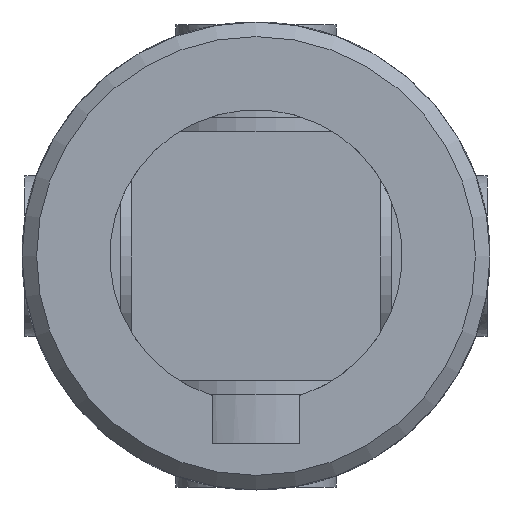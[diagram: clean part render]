
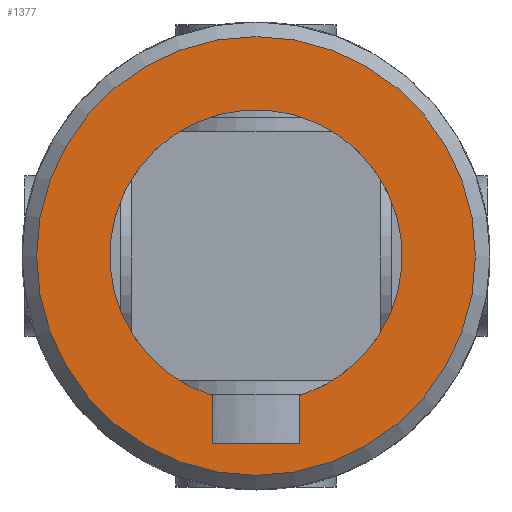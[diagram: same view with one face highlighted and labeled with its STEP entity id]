
A CAD part, front view. The second image highlights one B-rep face of the part: STEP entity #1377.
In plain terms, the highlighted planar face has unit normal (0, -1, 0).
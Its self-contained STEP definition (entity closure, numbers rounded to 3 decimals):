
#146=LINE('',#2459,#201);
#148=LINE('',#2465,#203);
#152=LINE('',#2477,#207);
#201=VECTOR('',#1793,6.);
#203=VECTOR('',#1799,3.261);
#207=VECTOR('',#1811,3.261);
#256=PLANE('',#1523);
#290=FACE_BOUND('',#468,.T.);
#356=FACE_OUTER_BOUND('',#467,.T.);
#467=EDGE_LOOP('',(#1171));
#468=EDGE_LOOP('',(#1172,#1173,#1174,#1175));
#543=CIRCLE('',#1509,10.);
#550=CIRCLE('',#1521,15.);
#645=VERTEX_POINT('',#2456);
#646=VERTEX_POINT('',#2458);
#648=VERTEX_POINT('',#2464);
#652=VERTEX_POINT('',#2475);
#666=VERTEX_POINT('',#2572);
#808=EDGE_CURVE('',#646,#645,#146,.T.);
#811=EDGE_CURVE('',#648,#646,#148,.T.);
#817=EDGE_CURVE('',#645,#652,#152,.T.);
#826=EDGE_CURVE('',#652,#648,#543,.T.);
#838=EDGE_CURVE('',#666,#666,#550,.T.);
#1171=ORIENTED_EDGE('',*,*,#838,.F.);
#1172=ORIENTED_EDGE('',*,*,#817,.T.);
#1173=ORIENTED_EDGE('',*,*,#826,.T.);
#1174=ORIENTED_EDGE('',*,*,#811,.T.);
#1175=ORIENTED_EDGE('',*,*,#808,.T.);
#1377=ADVANCED_FACE('',(#356,#290),#256,.F.);
#1509=AXIS2_PLACEMENT_3D('',#2522,#1820,#1821);
#1521=AXIS2_PLACEMENT_3D('',#2573,#1845,#1846);
#1523=AXIS2_PLACEMENT_3D('',#2785,#1853,#1854);
#1793=DIRECTION('',(-1.,0.,0.));
#1799=DIRECTION('',(0.,0.,-1.));
#1811=DIRECTION('',(0.,0.,1.));
#1820=DIRECTION('center_axis',(0.,1.,0.));
#1821=DIRECTION('ref_axis',(-0.3,0.,0.954));
#1845=DIRECTION('center_axis',(0.,1.,0.));
#1846=DIRECTION('ref_axis',(1.,0.,0.));
#1853=DIRECTION('center_axis',(0.,1.,0.));
#1854=DIRECTION('ref_axis',(0.,0.,1.));
#2456=CARTESIAN_POINT('',(-3.,-51.,-12.8));
#2458=CARTESIAN_POINT('',(3.,-51.,-12.8));
#2459=CARTESIAN_POINT('',(1.5,-51.,-12.8));
#2464=CARTESIAN_POINT('',(3.,-51.,-9.539));
#2465=CARTESIAN_POINT('',(3.,-51.,-4.77));
#2475=CARTESIAN_POINT('',(-3.,-51.,-9.539));
#2477=CARTESIAN_POINT('',(-3.,-51.,-6.4));
#2522=CARTESIAN_POINT('Origin',(0.,-51.,0.));
#2572=CARTESIAN_POINT('',(-15.,-51.,0.));
#2573=CARTESIAN_POINT('Origin',(0.,-51.,0.));
#2785=CARTESIAN_POINT('Origin',(0.,-51.,0.));
